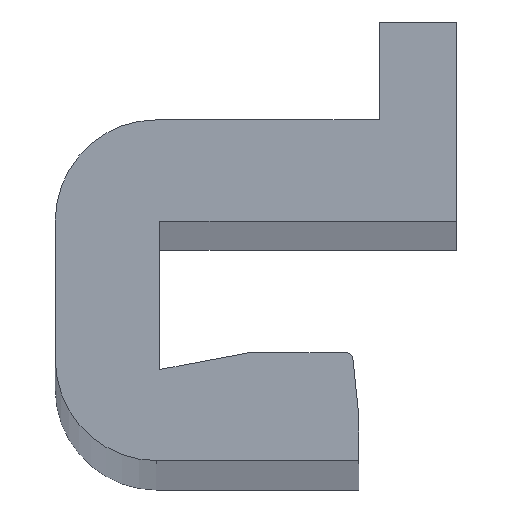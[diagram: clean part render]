
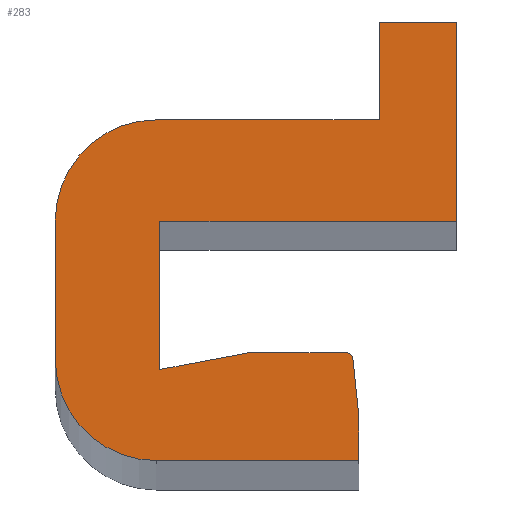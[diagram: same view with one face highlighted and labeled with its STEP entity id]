
A CAD part, top view. The second image highlights one B-rep face of the part: STEP entity #283.
In plain terms, the highlighted planar face has unit normal (0, 0, 1).
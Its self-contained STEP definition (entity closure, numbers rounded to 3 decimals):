
#8 = VERTEX_POINT ( 'NONE', #270 ) ;
#12 = VERTEX_POINT ( 'NONE', #274 ) ;
#15 = VERTEX_POINT ( 'NONE', #371 ) ;
#21 = EDGE_CURVE ( 'NONE', #102, #12, #218, .T. ) ;
#24 = VERTEX_POINT ( 'NONE', #232 ) ;
#37 = EDGE_CURVE ( 'NONE', #8, #24, #145, .T. ) ;
#41 = EDGE_CURVE ( 'NONE', #15, #8, #326, .T. ) ;
#51 = EDGE_CURVE ( 'NONE', #52, #15, #356, .T. ) ;
#52 = VERTEX_POINT ( 'NONE', #362 ) ;
#61 = EDGE_CURVE ( 'NONE', #77, #80, #197, .T. ) ;
#65 = VERTEX_POINT ( 'NONE', #204 ) ;
#67 = EDGE_CURVE ( 'NONE', #265, #77, #202, .T. ) ;
#77 = VERTEX_POINT ( 'NONE', #176 ) ;
#80 = VERTEX_POINT ( 'NONE', #188 ) ;
#89 = EDGE_CURVE ( 'NONE', #80, #90, #510, .T. ) ;
#90 = VERTEX_POINT ( 'NONE', #513 ) ;
#96 = EDGE_CURVE ( 'NONE', #65, #265, #511, .T. ) ;
#102 = VERTEX_POINT ( 'NONE', #494 ) ;
#103 = EDGE_CURVE ( 'NONE', #117, #102, #499, .T. ) ;
#114 = EDGE_CURVE ( 'NONE', #132, #117, #550, .T. ) ;
#117 = VERTEX_POINT ( 'NONE', #531 ) ;
#123 = EDGE_CURVE ( 'NONE', #24, #132, #447, .T. ) ;
#132 = VERTEX_POINT ( 'NONE', #528 ) ;
#139 = DIRECTION ( 'NONE',  ( 0.983, 0.185, 0. ) ) ;
#140 = VECTOR ( 'NONE', #139, 1000. ) ;
#141 = CARTESIAN_POINT ( 'NONE',  ( -8.8, -4.4, 0. ) ) ;
#145 = LINE ( 'NONE', #141, #140 ) ;
#176 = CARTESIAN_POINT ( 'NONE',  ( -2.3, 3., 0. ) ) ;
#181 = VECTOR ( 'NONE', #184, 1000. ) ;
#184 = DIRECTION ( 'NONE',  ( 1., 0., 0. ) ) ;
#185 = CARTESIAN_POINT ( 'NONE',  ( -2.3, 3., 0. ) ) ;
#188 = CARTESIAN_POINT ( 'NONE',  ( -2.3, 5.9, 0. ) ) ;
#189 = DIRECTION ( 'NONE',  ( 0., 1., 0. ) ) ;
#190 = VECTOR ( 'NONE', #189, 1000. ) ;
#191 = CARTESIAN_POINT ( 'NONE',  ( -2.3, 5.9, 0. ) ) ;
#197 = LINE ( 'NONE', #191, #190 ) ;
#202 = LINE ( 'NONE', #185, #181 ) ;
#204 = CARTESIAN_POINT ( 'NONE',  ( -11.9, 0., 0. ) ) ;
#215 = DIRECTION ( 'NONE',  ( 0., -1., 0. ) ) ;
#216 = VECTOR ( 'NONE', #215, 1000. ) ;
#217 = CARTESIAN_POINT ( 'NONE',  ( -2.9, -7.1, 0. ) ) ;
#218 = LINE ( 'NONE', #217, #216 ) ;
#232 = CARTESIAN_POINT ( 'NONE',  ( -6.137, -3.9, 0. ) ) ;
#250 = EDGE_LOOP ( 'NONE', ( #285, #282, #284, #281, #294, #286, #345, #287, #349, #344, #351, #346, #258, #350, #252 ) ) ;
#252 = ORIENTED_EDGE ( 'NONE', *, *, #41, .F. ) ;
#257 = EDGE_CURVE ( 'NONE', #90, #52, #442, .T. ) ;
#258 = ORIENTED_EDGE ( 'NONE', *, *, #123, .F. ) ;
#265 = VERTEX_POINT ( 'NONE', #413 ) ;
#270 = CARTESIAN_POINT ( 'NONE',  ( -8.8, -4.4, 0. ) ) ;
#274 = CARTESIAN_POINT ( 'NONE',  ( -2.9, -7.1, 0. ) ) ;
#281 = ORIENTED_EDGE ( 'NONE', *, *, #61, .F. ) ;
#282 = ORIENTED_EDGE ( 'NONE', *, *, #257, .F. ) ;
#283 = ADVANCED_FACE ( 'NONE', ( #406 ), #408, .F. ) ;
#284 = ORIENTED_EDGE ( 'NONE', *, *, #89, .F. ) ;
#285 = ORIENTED_EDGE ( 'NONE', *, *, #51, .F. ) ;
#286 = ORIENTED_EDGE ( 'NONE', *, *, #96, .F. ) ;
#287 = ORIENTED_EDGE ( 'NONE', *, *, #307, .F. ) ;
#294 = ORIENTED_EDGE ( 'NONE', *, *, #67, .F. ) ;
#301 = VERTEX_POINT ( 'NONE', #480 ) ;
#304 = EDGE_CURVE ( 'NONE', #12, #301, #393, .T. ) ;
#306 = EDGE_CURVE ( 'NONE', #308, #65, #477, .T. ) ;
#307 = EDGE_CURVE ( 'NONE', #301, #308, #396, .T. ) ;
#308 = VERTEX_POINT ( 'NONE', #478 ) ;
#323 = DIRECTION ( 'NONE',  ( 0., -1., 0. ) ) ;
#324 = VECTOR ( 'NONE', #323, 1000. ) ;
#325 = CARTESIAN_POINT ( 'NONE',  ( -8.8, 0., 0. ) ) ;
#326 = LINE ( 'NONE', #325, #324 ) ;
#344 = ORIENTED_EDGE ( 'NONE', *, *, #21, .F. ) ;
#345 = ORIENTED_EDGE ( 'NONE', *, *, #306, .F. ) ;
#346 = ORIENTED_EDGE ( 'NONE', *, *, #114, .F. ) ;
#349 = ORIENTED_EDGE ( 'NONE', *, *, #304, .F. ) ;
#350 = ORIENTED_EDGE ( 'NONE', *, *, #37, .F. ) ;
#351 = ORIENTED_EDGE ( 'NONE', *, *, #103, .F. ) ;
#353 = DIRECTION ( 'NONE',  ( -1., 0., 0. ) ) ;
#354 = VECTOR ( 'NONE', #353, 1000. ) ;
#355 = CARTESIAN_POINT ( 'NONE',  ( 0., 0., 0. ) ) ;
#356 = LINE ( 'NONE', #355, #354 ) ;
#362 = CARTESIAN_POINT ( 'NONE',  ( 0., 0., 0. ) ) ;
#371 = CARTESIAN_POINT ( 'NONE',  ( -8.8, 0., 0. ) ) ;
#393 = LINE ( 'NONE', #482, #481 ) ;
#396 = CIRCLE ( 'NONE', #409, 3. ) ;
#406 = FACE_OUTER_BOUND ( 'NONE', #250, .T. ) ;
#408 = PLANE ( 'NONE',  #416 ) ;
#409 = AXIS2_PLACEMENT_3D ( 'NONE', #474, #464, #463 ) ;
#413 = CARTESIAN_POINT ( 'NONE',  ( -8.9, 3., 0. ) ) ;
#414 = DIRECTION ( 'NONE',  ( 0., 0., -1. ) ) ;
#415 = CARTESIAN_POINT ( 'NONE',  ( -3.277, -4.1, 0. ) ) ;
#416 = AXIS2_PLACEMENT_3D ( 'NONE', #415, #414, #484 ) ;
#420 = DIRECTION ( 'NONE',  ( 0., -1., 0. ) ) ;
#437 = VECTOR ( 'NONE', #420, 1000. ) ;
#441 = CARTESIAN_POINT ( 'NONE',  ( 0., 0., 0. ) ) ;
#442 = LINE ( 'NONE', #441, #437 ) ;
#444 = DIRECTION ( 'NONE',  ( 1., 0., 0. ) ) ;
#445 = VECTOR ( 'NONE', #444, 1000. ) ;
#446 = CARTESIAN_POINT ( 'NONE',  ( -6.137, -3.9, 0. ) ) ;
#447 = LINE ( 'NONE', #446, #445 ) ;
#463 = DIRECTION ( 'NONE',  ( -1., 0., 0. ) ) ;
#464 = DIRECTION ( 'NONE',  ( 0., 0., -1. ) ) ;
#467 = DIRECTION ( 'NONE',  ( 0., 1., 0. ) ) ;
#468 = VECTOR ( 'NONE', #467, 1000. ) ;
#469 = CARTESIAN_POINT ( 'NONE',  ( -11.9, 0., 0. ) ) ;
#474 = CARTESIAN_POINT ( 'NONE',  ( -8.9, -4.1, 0. ) ) ;
#476 = DIRECTION ( 'NONE',  ( -1., 0., 0. ) ) ;
#477 = LINE ( 'NONE', #469, #468 ) ;
#478 = CARTESIAN_POINT ( 'NONE',  ( -11.9, -4.1, 0. ) ) ;
#480 = CARTESIAN_POINT ( 'NONE',  ( -8.9, -7.1, 0. ) ) ;
#481 = VECTOR ( 'NONE', #476, 1000. ) ;
#482 = CARTESIAN_POINT ( 'NONE',  ( -8.9, -7.1, 0. ) ) ;
#484 = DIRECTION ( 'NONE',  ( -1., 0., 0. ) ) ;
#488 = VECTOR ( 'NONE', #505, 1000. ) ;
#494 = CARTESIAN_POINT ( 'NONE',  ( -2.9, -5.8, 0. ) ) ;
#496 = DIRECTION ( 'NONE',  ( -1., 0., 0. ) ) ;
#497 = DIRECTION ( 'NONE',  ( 0., 0., -1. ) ) ;
#498 = AXIS2_PLACEMENT_3D ( 'NONE', #502, #497, #496 ) ;
#499 = LINE ( 'NONE', #506, #488 ) ;
#502 = CARTESIAN_POINT ( 'NONE',  ( -8.9, 0., 0. ) ) ;
#505 = DIRECTION ( 'NONE',  ( 0.103, -0.995, 0. ) ) ;
#506 = CARTESIAN_POINT ( 'NONE',  ( -2.9, -5.8, 0. ) ) ;
#507 = DIRECTION ( 'NONE',  ( 1., 0., 0. ) ) ;
#508 = VECTOR ( 'NONE', #507, 1000. ) ;
#509 = CARTESIAN_POINT ( 'NONE',  ( 0., 5.9, 0. ) ) ;
#510 = LINE ( 'NONE', #509, #508 ) ;
#511 = CIRCLE ( 'NONE', #498, 3. ) ;
#513 = CARTESIAN_POINT ( 'NONE',  ( 0., 5.9, 0. ) ) ;
#528 = CARTESIAN_POINT ( 'NONE',  ( -3.277, -3.9, 0. ) ) ;
#531 = CARTESIAN_POINT ( 'NONE',  ( -3.078, -4.079, 0. ) ) ;
#534 = DIRECTION ( 'NONE',  ( -1., 0., 0. ) ) ;
#535 = AXIS2_PLACEMENT_3D ( 'NONE', #541, #546, #534 ) ;
#541 = CARTESIAN_POINT ( 'NONE',  ( -3.277, -4.1, 0. ) ) ;
#546 = DIRECTION ( 'NONE',  ( 0., 0., -1. ) ) ;
#550 = CIRCLE ( 'NONE', #535, 0.2 ) ;
